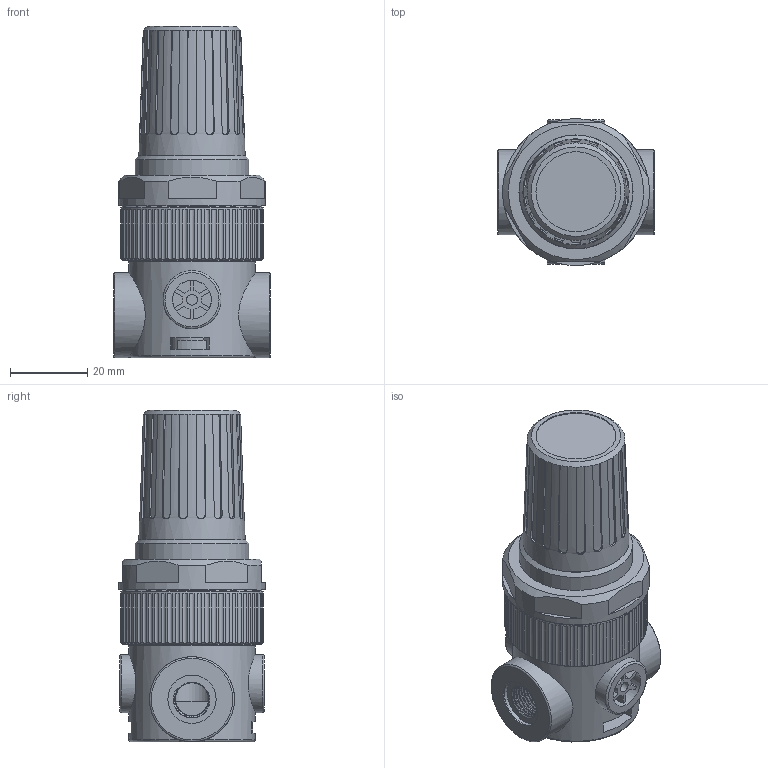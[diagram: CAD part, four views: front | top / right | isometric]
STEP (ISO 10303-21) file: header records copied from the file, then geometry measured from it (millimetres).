
FILE_DESCRIPTION(/* description */ (''),/* implementation_level */ '2;1');
FILE_NAME(/* name */ 'B-R37-01.step',/* time_stamp */ '2024-01-05T13:07:59+01:00',/* author */ (''),/* organization */ (''),/* preprocessor_version */ 'ST-DEVELOPER v20',/* originating_system */ 'Autodesk Translation Framework v12.14.0.127',/* authorisation */ '');
FILE_SCHEMA (('AUTOMOTIVE_DESIGN { 1 0 10303 214 3 1 1 }'));
Length unit declared in the file: centimetre
Products named in the file (10): (Nicht gespeichert); B-R38-Befestigungsmutter; B-R38-Bodenschraube; B-R38-Distanzring; B-R38-Gehaeuse; B-R38-Haube; B-R38-Sicherung; B-R38-Gewindebuchse; R037-Knopf v2; R039-02 v1
Assembly tree (10 placements, depth 3):
  (Nicht gespeichert)
    B-R38-Befestigungsmutter
    B-R38-Bodenschraube
    B-R38-Distanzring
    B-R38-Gehaeuse
    B-R38-Haube
    B-R38-Sicherung
    B-R38-Gewindebuchse  x2
    R037-Knopf v2
      R039-02 v1
Bounding box: 40.6 x 38 x 85.73 mm (x, y, z)
Volume: 55775.6 mm3; surface area: 33897.6 mm2
Topology: 17 solids, 17 shells, 920 faces, 2609 edges, 1766 vertices
Faces by surface type: plane 574, cylinder 290, cone 29, bspline 16, torus 11
Full cylindrical faces by diameter (mm): 1 x2, 2.5 x1, 2.7 x1, 2.8 x3, 5.5 x1, 5.9 x1, 6.5 x1, 7 x1, 8.5 x3, 8.6 x1, 8.75 x1, 9.728 x14, 10 x3, 10.25 x1, 11.45 x1, 12.5 x6, 14.3 x1, 15 x2, 20.6 x1, 20.7 x1, 21.4 x1, 22 x3, 24 x1, 24.3 x1, 24.7 x1, 28.7 x1, 29.25 x1, 29.4 x1, 29.5 x1, 30 x1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
Entity records: 35196 total; most frequent: CARTESIAN_POINT 11921, ORIENTED_EDGE 4916, DIRECTION 4723, EDGE_CURVE 2458, AXIS2_PLACEMENT_3D 1703, VERTEX_POINT 1638, LINE 1317, VECTOR 1317
